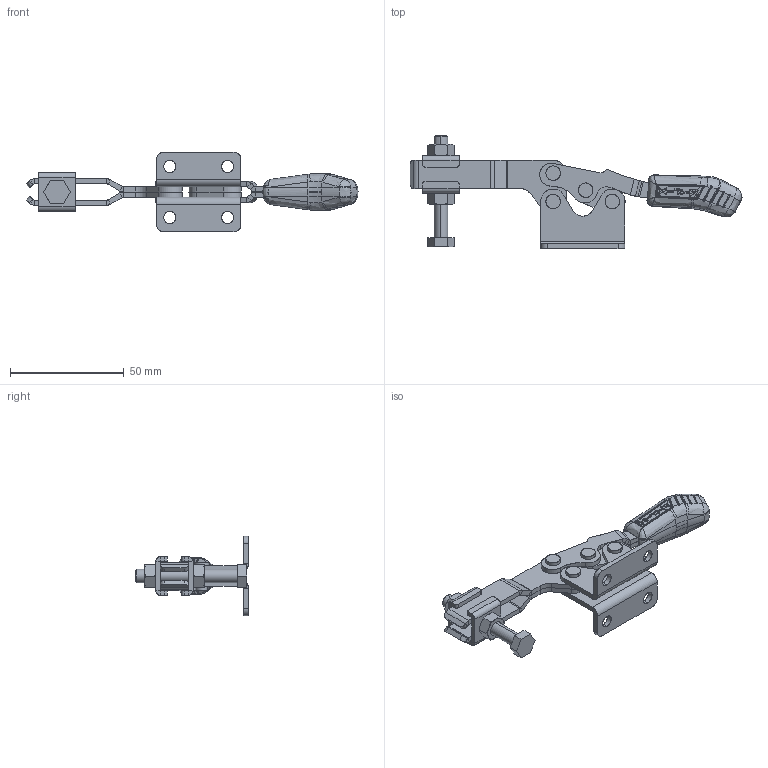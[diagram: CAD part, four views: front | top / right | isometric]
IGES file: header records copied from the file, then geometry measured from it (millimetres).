
Start section: SolidWorks IGES file using analytic representation for surfaces
Global section: file name: C:\Projetos\Grampos\KF-512\KF-512 D\KF-512 D.IGS; native system: SolidWorks 2013; preprocessor: SolidWorks 2013; author: Ricardo; date: 140818.093435; units: millimetre
Bounding box: 145.88 x 49.85 x 34.9 mm (x, y, z)
Surface area: 22940.3 mm2 (no closed solid volume)
Topology: 0 solids, 0 shells, 1089 faces, 11699 edges, 11668 vertices
Faces by surface type: bspline 595, revolution 494
